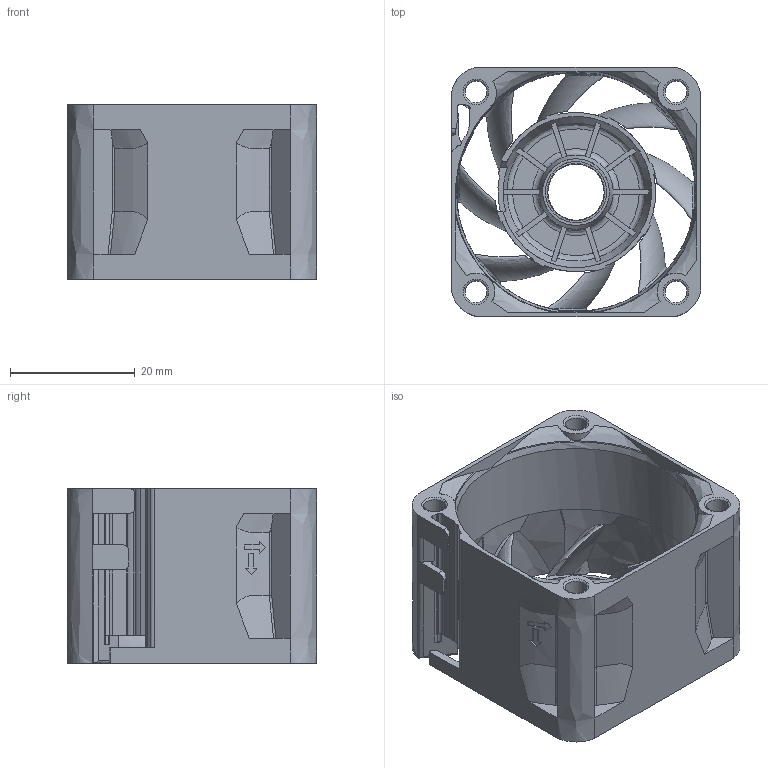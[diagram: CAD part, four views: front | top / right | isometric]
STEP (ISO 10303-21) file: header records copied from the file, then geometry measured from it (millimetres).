
FILE_DESCRIPTION( ('This file contains a STEP AP42 implementation' ,'as created by ZW3D STEP Interface translator.') ,'2;1' );
FILE_NAME( '4028-F¿ò.stp' ,'25 915.164635', (''), ('ZWCAD Software Co.'), 'Version 1.0', 'ZW3D to STEP translator', '' );
FILE_SCHEMA(('AUTOMOTIVE_DESIGN'));
Length unit declared in the file: millimetre
Products named in the file (1): 0
Bounding box: 39.9 x 39.9 x 28 mm (x, y, z)
Volume: 9175.9 mm3; surface area: 13149.7 mm2
Topology: 1 solids, 1 shells, 679 faces, 1994 edges, 1299 vertices
Faces by surface type: bspline 679
Entity records: 60076 total; most frequent: CARTESIAN_POINT 48268, ORIENTED_EDGE 3972, EDGE_CURVE 1986, B_SPLINE_CURVE_WITH_KNOTS 1392, VERTEX_POINT 1299, EDGE_LOOP 695, FACE_OUTER_BOUND 679, ADVANCED_FACE 679
